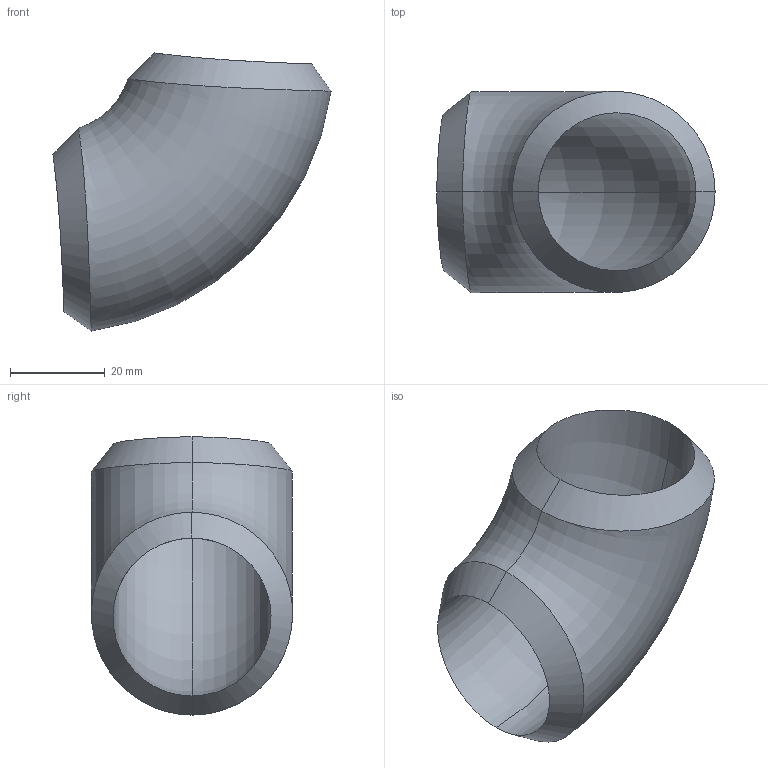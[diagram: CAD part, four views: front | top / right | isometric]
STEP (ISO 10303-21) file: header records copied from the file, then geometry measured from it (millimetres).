
FILE_DESCRIPTION (( 'STEP AP203' ), '1' );
FILE_NAME ('3D_R2651_1X80S_173425123.STEP', '2024-08-22T09:36:44', ( '' ), ( '' ), 'SwSTEP 2.0', 'SolidWorks 2024', '' );
FILE_SCHEMA (( 'CONFIG_CONTROL_DESIGN' ));
Length unit declared in the file: millimetre
Products named in the file (1): 3D_R2651_1X80S_173425123
Bounding box: 58.8 x 42.49 x 58.8 mm (x, y, z)
Volume: 27839 mm3; surface area: 13861 mm2
Topology: 1 solids, 1 shells, 10 faces, 26 edges, 16 vertices
Faces by surface type: bspline 4, torus 4, plane 2
Entity records: 2933 total; most frequent: CARTESIAN_POINT 2647, ORIENTED_EDGE 52, DIRECTION 30, EDGE_CURVE 26, B_SPLINE_CURVE_WITH_KNOTS 18, VERTEX_POINT 16, AXIS2_PLACEMENT_3D 15, FACE_OUTER_BOUND 10
